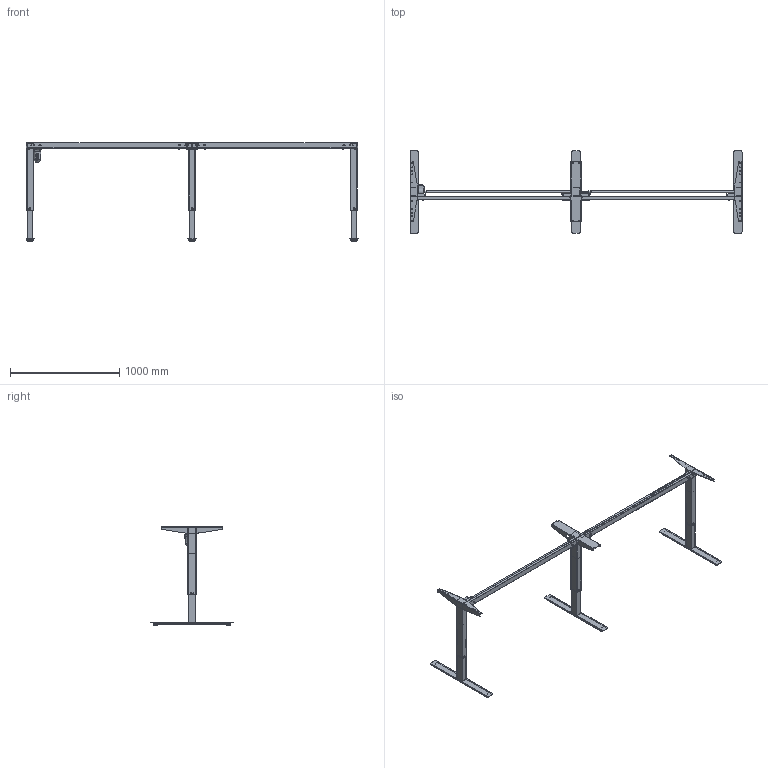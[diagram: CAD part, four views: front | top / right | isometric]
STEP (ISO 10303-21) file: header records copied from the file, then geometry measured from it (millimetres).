
FILE_DESCRIPTION (( 'STEP AP203' ), '1' );
FILE_NAME ('Tech-draw_501-47_XX302.STEP', '2020-12-21T07:45:06', ( '' ), ( '' ), 'SwSTEP 2.0', 'SolidWorks 2020', '' );
FILE_SCHEMA (( 'CONFIG_CONTROL_DESIGN' ));
Length unit declared in the file: millimetre
Products named in the file (46): 352360_silver; 352190; 326900; 347920_152; 150690; 150650_chrome; 352690; 340540_shell view; 347910_152; 151180_chrome; 324520; 345600; 151670_501-47 XC302; 341800; 144260_152; 352150; 140860_chrome1; 140850_chrome1; 352160; 352300_shell view; 352610; 150630_chrome; 352200; 352130; 352370; 332570; 344820_shell view; 352140_shell view; 348720_shell view; 352350_silver; 150600_chrome; 345610_shell view; 151440_chrome; 324520_silver; Tech-draw_501-47_XX302; 341220; 340760; 150610_chrome1; 150660_chrome; 344430_silver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
Assembly tree (97 placements, depth 5):
  Tech-draw_501-47_XX302
    151670_501-47 XC302
      150600_chrome
        150610_chrome1
          345600
          352140_shell view
          352130
        151180_chrome
          352370
          352690
        324520  x2
        341800  x2
        150690
          352190
          352200
        352350_silver
        352360_silver
        151440_chrome
          352160
          352150
        304650  x4
      347910_152  x2
      144260_152
        347920_152
        340560
        341220
      144260_152
        347920_152
        340560
        341220
      150650_chrome
        140860_chrome1
          345610_shell view
          344820_shell view
          348720_shell view
        150630_chrome
          352300_shell view
          352690
        324520_silver  x2
        341800  x2
        326900  x2
        344430_silver
        352360_silver
        352350_silver
        151440_chrome
          352160
          352150
        304650  x4
        352610
      150660_chrome
        140850_chrome1
          345600
          344820_shell view
          340540_shell view
        150630_chrome
          352300_shell view
          352690
        324520  x2
        341800  x2
        352350_silver
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Bounding box: 3033 x 750 x 901.26 mm (x, y, z)
Volume: 4609620.9 mm3; surface area: 4277297.4 mm2
Topology: 81 solids, 81 shells, 7295 faces, 18916 edges, 12006 vertices
Faces by surface type: plane 3787, cylinder 2153, bspline 850, cone 275, torus 182, sphere 48
Full cylindrical faces by diameter (mm): 2.8 x6, 3 x4, 3.3 x2, 4.6 x8, 5 x46, 6 x32, 6.7 x12, 7 x16, 7.6 x8, 8 x24, 8.2 x2, 8.5 x2, 10 x17, 11.9 x4, 12 x2, 13 x4, 15 x7, 16 x3, 18 x2, 20 x4, 24 x1, 37.6 x12, 60 x1
Entity records: 145819 total; most frequent: CARTESIAN_POINT 58394, ORIENTED_EDGE 17438, DIRECTION 15998, EDGE_CURVE 8719, VERTEX_POINT 5653, AXIS2_PLACEMENT_3D 5588, LINE 4822, VECTOR 4822
